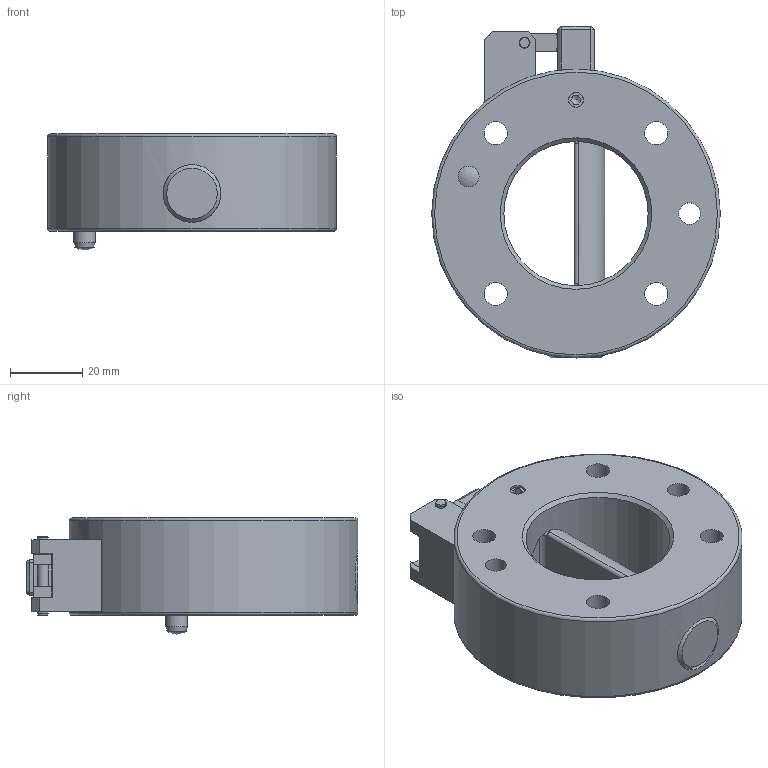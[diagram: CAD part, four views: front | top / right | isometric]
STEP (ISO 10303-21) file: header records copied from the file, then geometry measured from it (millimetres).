
FILE_DESCRIPTION((''),'2;1');
FILE_NAME('T:\CAD\Standard\Daten\3D-Datenbank\SWS\SWS080\step-Daten\G-SWS080-2O.stp','2011-08-19T10:47:21',('Yvonne'),(''),'Autodesk Inventor 2011','Autodesk Inventor 2011','');
FILE_SCHEMA(('AUTOMOTIVE_DESIGN { 1 0 10303 214 1 1 1 1 }'));
Length unit declared in the file: millimetre
Products named in the file (1): Bauteil1
Bounding box: 80 x 92 x 32.17 mm (x, y, z)
Volume: 103534 mm3; surface area: 25757.3 mm2
Topology: 1 solids, 2 shells, 168 faces, 404 edges, 257 vertices
Faces by surface type: plane 80, cylinder 53, cone 21, torus 8, bspline 4, sphere 2
Full cylindrical faces by diameter (mm): 2.459 x2, 3 x7, 3.4 x2, 3.5 x1, 4.134 x3, 5.5 x2, 5.8 x1, 6 x2, 6.4 x4, 6.5 x2, 11 x4, 16 x2, 40 x1, 80 x1
Entity records: 5079 total; most frequent: CARTESIAN_POINT 1386, DIRECTION 714, ORIENTED_EDGE 646, EDGE_CURVE 323, AXIS2_PLACEMENT_3D 288, EDGE_LOOP 264, VERTEX_POINT 233, FACE_OUTER_BOUND 168
